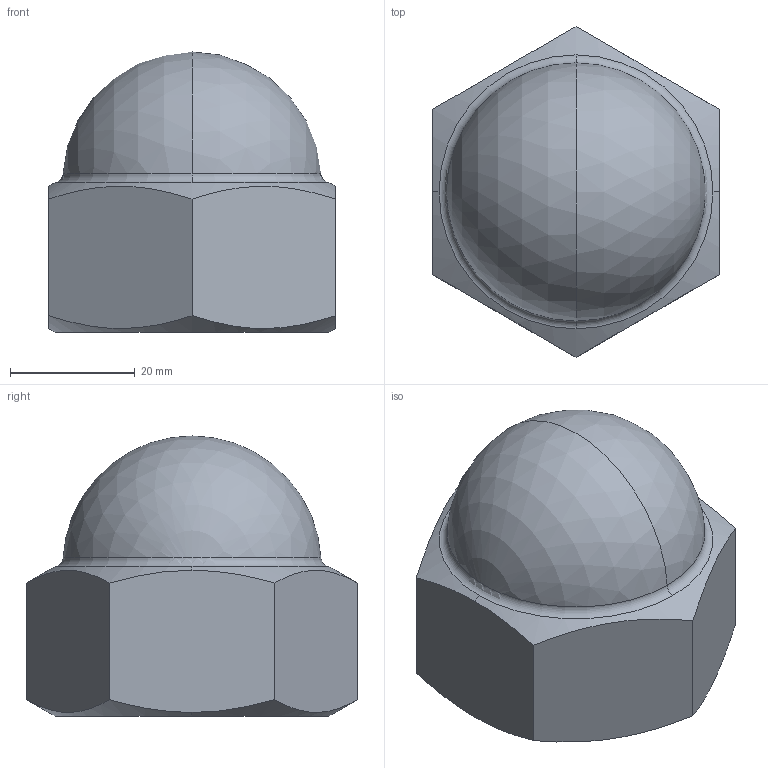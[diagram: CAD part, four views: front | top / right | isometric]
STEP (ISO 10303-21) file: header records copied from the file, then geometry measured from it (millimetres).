
FILE_DESCRIPTION (( 'STEP AP214' ), '1' );
FILE_NAME ('Domed-cap-nut-3-2-M30xP2-fine-thread-screw-simplified-drawing.STEP', '2024-03-24T06:08:45', ( 'ASIS User' ), ( 'ASIS User' ), 'SwSTEP 2.0', 'SolidWorks 2023', '' );
FILE_SCHEMA (( 'AUTOMOTIVE_DESIGN' ));
Length unit declared in the file: millimetre
Products named in the file (1): Domed-cap-nut-3-2-M30xP2-fine-thread-screw-simplified-drawing
Bounding box: 46 x 53.12 x 45 mm (x, y, z)
Volume: 33674 mm3; surface area: 12630.7 mm2
Topology: 1 solids, 1 shells, 26 faces, 64 edges, 40 vertices
Faces by surface type: cone 8, plane 8, cylinder 4, sphere 4, torus 2
Entity records: 885 total; most frequent: CARTESIAN_POINT 277, DIRECTION 124, ORIENTED_EDGE 120, EDGE_CURVE 60, AXIS2_PLACEMENT_3D 53, VERTEX_POINT 38, EDGE_LOOP 28, FACE_OUTER_BOUND 26
